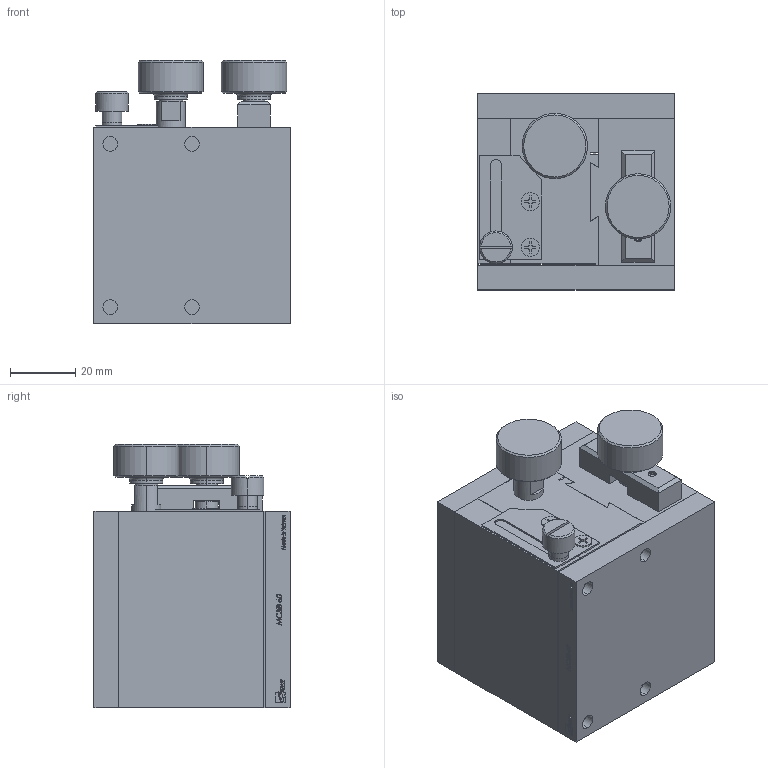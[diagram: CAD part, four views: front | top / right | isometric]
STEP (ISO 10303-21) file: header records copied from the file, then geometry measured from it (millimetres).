
FILE_DESCRIPTION (( 'STEP AP203' ), '1' );
FILE_NAME ('MC5B-60.STEP', '2008-07-19T08:25:19', ( 'user' ), ( '' ), 'SwSTEP 2.0', 'SolidWorks 2007', '' );
FILE_SCHEMA (( 'CONFIG_CONTROL_DESIGN' ));
Length unit declared in the file: millimetre
Products named in the file (1): MC5B-60
Bounding box: 60 x 60 x 80.5 mm (x, y, z)
Volume: 222291.3 mm3; surface area: 55968.7 mm2
Topology: 14 solids, 16 shells, 653 faces, 1663 edges, 1089 vertices
Faces by surface type: plane 354, cylinder 154, bspline 111, cone 30, torus 4
Entity records: 27261 total; most frequent: CARTESIAN_POINT 11876, ORIENTED_EDGE 3298, DIRECTION 2839, EDGE_CURVE 1649, VERTEX_POINT 1089, LINE 1057, VECTOR 1057, AXIS2_PLACEMENT_3D 891
